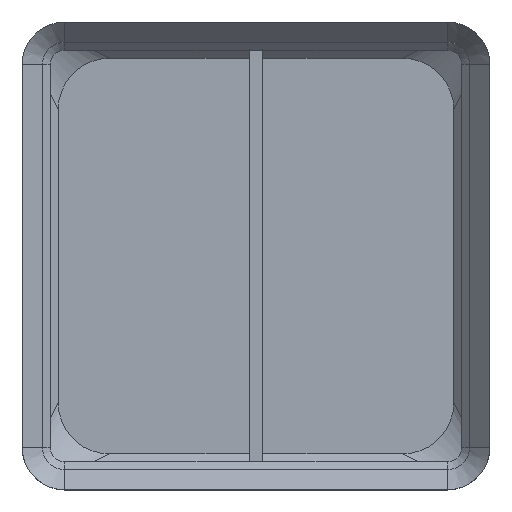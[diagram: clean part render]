
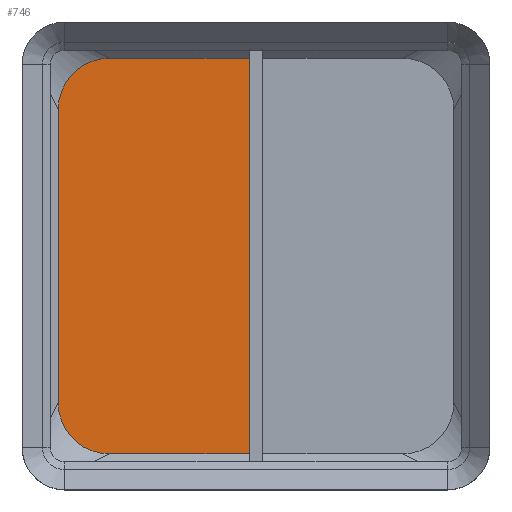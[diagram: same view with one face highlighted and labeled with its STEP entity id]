
A CAD part, top view. The second image highlights one B-rep face of the part: STEP entity #746.
In plain terms, the highlighted planar face has unit normal (0, 0, 1).
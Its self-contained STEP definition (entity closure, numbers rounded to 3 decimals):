
#32 = PLANE('',#33);
#33 = AXIS2_PLACEMENT_3D('',#34,#35,#36);
#34 = CARTESIAN_POINT('',(-0.6,-19.75,5.65));
#35 = DIRECTION('',(1.,0.,-0.));
#36 = DIRECTION('',(0.,0.,1.));
#83 = VERTEX_POINT('',#84);
#84 = CARTESIAN_POINT('',(-0.6,-17.55,5.75));
#112 = B_SPLINE_SURFACE_WITH_KNOTS('',1,1,(
    (#113,#114)
    ,(#115,#116
    )),.UNSPECIFIED.,.F.,.F.,.F.,(2,2),(2,2),(-17.,17.),(0.,1.),
  .PIECEWISE_BEZIER_KNOTS.);
#113 = CARTESIAN_POINT('',(-13.,-17.55,5.75));
#114 = CARTESIAN_POINT('',(-17.,-19.55,7.75));
#115 = CARTESIAN_POINT('',(13.,-17.55,5.75));
#116 = CARTESIAN_POINT('',(17.,-19.55,7.75));
#131 = EDGE_CURVE('',#83,#132,#134,.T.);
#132 = VERTEX_POINT('',#133);
#133 = CARTESIAN_POINT('',(-0.6,17.55,5.75));
#134 = SURFACE_CURVE('',#135,(#139,#145),.PCURVE_S1.);
#135 = LINE('',#136,#137);
#136 = CARTESIAN_POINT('',(-0.6,-16.375,5.75));
#137 = VECTOR('',#138,1.);
#138 = DIRECTION('',(-0.,1.,0.));
#139 = PCURVE('',#32,#140);
#140 = DEFINITIONAL_REPRESENTATION('',(#141),#144);
#141 = B_SPLINE_CURVE_WITH_KNOTS('',1,(#142,#143),.UNSPECIFIED.,.F.,.F.,
  (2,2),(-1.175,33.925),.PIECEWISE_BEZIER_KNOTS.);
#142 = CARTESIAN_POINT('',(0.1,-2.2));
#143 = CARTESIAN_POINT('',(0.1,-37.3));
#144 = ( GEOMETRIC_REPRESENTATION_CONTEXT(2) 
PARAMETRIC_REPRESENTATION_CONTEXT() REPRESENTATION_CONTEXT('2D SPACE',''
  ) );
#145 = PCURVE('',#146,#151);
#146 = PLANE('',#147);
#147 = AXIS2_PLACEMENT_3D('',#148,#149,#150);
#148 = CARTESIAN_POINT('',(-13.,-13.,5.75));
#149 = DIRECTION('',(0.,0.,1.));
#150 = DIRECTION('',(1.,0.,0.));
#151 = DEFINITIONAL_REPRESENTATION('',(#152),#155);
#152 = B_SPLINE_CURVE_WITH_KNOTS('',1,(#153,#154),.UNSPECIFIED.,.F.,.F.,
  (2,2),(-1.175,33.925),.PIECEWISE_BEZIER_KNOTS.);
#153 = CARTESIAN_POINT('',(12.4,-4.55));
#154 = CARTESIAN_POINT('',(12.4,30.55));
#155 = ( GEOMETRIC_REPRESENTATION_CONTEXT(2) 
PARAMETRIC_REPRESENTATION_CONTEXT() REPRESENTATION_CONTEXT('2D SPACE',''
  ) );
#187 = B_SPLINE_SURFACE_WITH_KNOTS('',1,1,(
    (#188,#189)
    ,(#190,#191
    )),.UNSPECIFIED.,.F.,.F.,.F.,(2,2),(2,2),(-17.,17.),(0.,1.),
  .PIECEWISE_BEZIER_KNOTS.);
#188 = CARTESIAN_POINT('',(13.,17.55,5.75));
#189 = CARTESIAN_POINT('',(17.,19.55,7.75));
#190 = CARTESIAN_POINT('',(-13.,17.55,5.75));
#191 = CARTESIAN_POINT('',(-17.,19.55,7.75));
#684 = EDGE_CURVE('',#685,#132,#687,.T.);
#685 = VERTEX_POINT('',#686);
#686 = CARTESIAN_POINT('',(-13.,17.55,5.75));
#687 = SURFACE_CURVE('',#688,(#692,#698),.PCURVE_S1.);
#688 = LINE('',#689,#690);
#689 = CARTESIAN_POINT('',(0.,17.55,5.75));
#690 = VECTOR('',#691,1.);
#691 = DIRECTION('',(1.,0.,0.));
#692 = PCURVE('',#187,#693);
#693 = DEFINITIONAL_REPRESENTATION('',(#694),#697);
#694 = B_SPLINE_CURVE_WITH_KNOTS('',1,(#695,#696),.UNSPECIFIED.,.F.,.F.,
  (2,2),(-13.,13.),.PIECEWISE_BEZIER_KNOTS.);
#695 = CARTESIAN_POINT('',(17.,0.));
#696 = CARTESIAN_POINT('',(-17.,0.));
#697 = ( GEOMETRIC_REPRESENTATION_CONTEXT(2) 
PARAMETRIC_REPRESENTATION_CONTEXT() REPRESENTATION_CONTEXT('2D SPACE',''
  ) );
#698 = PCURVE('',#146,#699);
#699 = DEFINITIONAL_REPRESENTATION('',(#700),#704);
#700 = LINE('',#701,#702);
#701 = CARTESIAN_POINT('',(13.,30.55));
#702 = VECTOR('',#703,1.);
#703 = DIRECTION('',(1.,0.));
#704 = ( GEOMETRIC_REPRESENTATION_CONTEXT(2) 
PARAMETRIC_REPRESENTATION_CONTEXT() REPRESENTATION_CONTEXT('2D SPACE',''
  ) );
#719 = B_SPLINE_SURFACE_WITH_KNOTS('',8,1,(
    (#720,#721)
    ,(#722,#723)
    ,(#724,#725)
    ,(#726,#727)
    ,(#728,#729)
    ,(#730,#731)
    ,(#732,#733)
    ,(#734,#735)
    ,(#736,#737
    )),.UNSPECIFIED.,.F.,.F.,.F.,(9,9),(2,2),(1.571,
    3.142),(0.,1.),.PIECEWISE_BEZIER_KNOTS.);
#720 = CARTESIAN_POINT('',(-13.,17.55,5.75));
#721 = CARTESIAN_POINT('',(-17.,19.55,7.75));
#722 = CARTESIAN_POINT('',(-13.893,17.55,5.75));
#723 = CARTESIAN_POINT('',(-17.501,19.55,7.75));
#724 = CARTESIAN_POINT('',(-14.787,17.35,5.75));
#725 = CARTESIAN_POINT('',(-18.001,19.438,7.75));
#726 = CARTESIAN_POINT('',(-15.628,16.949,5.75));
#727 = CARTESIAN_POINT('',(-18.473,19.213,7.75));
#728 = CARTESIAN_POINT('',(-16.364,16.364,5.75));
#729 = CARTESIAN_POINT('',(-18.885,18.885,7.75));
#730 = CARTESIAN_POINT('',(-16.949,15.628,5.75));
#731 = CARTESIAN_POINT('',(-19.213,18.473,7.75));
#732 = CARTESIAN_POINT('',(-17.35,14.787,5.75));
#733 = CARTESIAN_POINT('',(-19.438,18.001,7.75));
#734 = CARTESIAN_POINT('',(-17.55,13.893,5.75));
#735 = CARTESIAN_POINT('',(-19.55,17.501,7.75));
#736 = CARTESIAN_POINT('',(-17.55,13.,5.75));
#737 = CARTESIAN_POINT('',(-19.55,17.,7.75));
#746 = ADVANCED_FACE('',(#747),#146,.T.);
#747 = FACE_BOUND('',#748,.T.);
#748 = EDGE_LOOP('',(#749,#778,#821,#841,#842,#843));
#749 = ORIENTED_EDGE('',*,*,#750,.F.);
#750 = EDGE_CURVE('',#751,#753,#755,.T.);
#751 = VERTEX_POINT('',#752);
#752 = CARTESIAN_POINT('',(-17.55,-13.,5.75));
#753 = VERTEX_POINT('',#754);
#754 = CARTESIAN_POINT('',(-17.55,13.,5.75));
#755 = SURFACE_CURVE('',#756,(#760,#767),.PCURVE_S1.);
#756 = LINE('',#757,#758);
#757 = CARTESIAN_POINT('',(-17.55,0.,5.75));
#758 = VECTOR('',#759,1.);
#759 = DIRECTION('',(0.,1.,0.));
#760 = PCURVE('',#146,#761);
#761 = DEFINITIONAL_REPRESENTATION('',(#762),#766);
#762 = LINE('',#763,#764);
#763 = CARTESIAN_POINT('',(-4.55,13.));
#764 = VECTOR('',#765,1.);
#765 = DIRECTION('',(0.,1.));
#766 = ( GEOMETRIC_REPRESENTATION_CONTEXT(2) 
PARAMETRIC_REPRESENTATION_CONTEXT() REPRESENTATION_CONTEXT('2D SPACE',''
  ) );
#767 = PCURVE('',#768,#773);
#768 = B_SPLINE_SURFACE_WITH_KNOTS('',1,1,(
    (#769,#770)
    ,(#771,#772
    )),.UNSPECIFIED.,.F.,.F.,.F.,(2,2),(2,2),(-17.,17.),(0.,1.),
  .PIECEWISE_BEZIER_KNOTS.);
#769 = CARTESIAN_POINT('',(-17.55,13.,5.75));
#770 = CARTESIAN_POINT('',(-19.55,17.,7.75));
#771 = CARTESIAN_POINT('',(-17.55,-13.,5.75));
#772 = CARTESIAN_POINT('',(-19.55,-17.,7.75));
#773 = DEFINITIONAL_REPRESENTATION('',(#774),#777);
#774 = B_SPLINE_CURVE_WITH_KNOTS('',1,(#775,#776),.UNSPECIFIED.,.F.,.F.,
  (2,2),(-13.,13.),.PIECEWISE_BEZIER_KNOTS.);
#775 = CARTESIAN_POINT('',(17.,0.));
#776 = CARTESIAN_POINT('',(-17.,0.));
#777 = ( GEOMETRIC_REPRESENTATION_CONTEXT(2) 
PARAMETRIC_REPRESENTATION_CONTEXT() REPRESENTATION_CONTEXT('2D SPACE',''
  ) );
#778 = ORIENTED_EDGE('',*,*,#779,.T.);
#779 = EDGE_CURVE('',#751,#780,#782,.T.);
#780 = VERTEX_POINT('',#781);
#781 = CARTESIAN_POINT('',(-13.,-17.55,5.75));
#782 = SURFACE_CURVE('',#783,(#788,#795),.PCURVE_S1.);
#783 = CIRCLE('',#784,4.55);
#784 = AXIS2_PLACEMENT_3D('',#785,#786,#787);
#785 = CARTESIAN_POINT('',(-13.,-13.,5.75));
#786 = DIRECTION('',(0.,0.,1.));
#787 = DIRECTION('',(1.,0.,0.));
#788 = PCURVE('',#146,#789);
#789 = DEFINITIONAL_REPRESENTATION('',(#790),#794);
#790 = CIRCLE('',#791,4.55);
#791 = AXIS2_PLACEMENT_2D('',#792,#793);
#792 = CARTESIAN_POINT('',(0.,0.));
#793 = DIRECTION('',(1.,0.));
#794 = ( GEOMETRIC_REPRESENTATION_CONTEXT(2) 
PARAMETRIC_REPRESENTATION_CONTEXT() REPRESENTATION_CONTEXT('2D SPACE',''
  ) );
#795 = PCURVE('',#796,#815);
#796 = B_SPLINE_SURFACE_WITH_KNOTS('',8,1,(
    (#797,#798)
    ,(#799,#800)
    ,(#801,#802)
    ,(#803,#804)
    ,(#805,#806)
    ,(#807,#808)
    ,(#809,#810)
    ,(#811,#812)
    ,(#813,#814
    )),.UNSPECIFIED.,.F.,.F.,.F.,(9,9),(2,2),(3.142,
    4.712),(0.,1.),.PIECEWISE_BEZIER_KNOTS.);
#797 = CARTESIAN_POINT('',(-17.55,-13.,5.75));
#798 = CARTESIAN_POINT('',(-19.55,-17.,7.75));
#799 = CARTESIAN_POINT('',(-17.55,-13.893,5.75));
#800 = CARTESIAN_POINT('',(-19.55,-17.501,7.75));
#801 = CARTESIAN_POINT('',(-17.35,-14.787,5.75));
#802 = CARTESIAN_POINT('',(-19.438,-18.001,7.75));
#803 = CARTESIAN_POINT('',(-16.949,-15.628,5.75));
#804 = CARTESIAN_POINT('',(-19.213,-18.473,
    7.75));
#805 = CARTESIAN_POINT('',(-16.364,-16.364,5.75));
#806 = CARTESIAN_POINT('',(-18.885,-18.885,
    7.75));
#807 = CARTESIAN_POINT('',(-15.628,-16.949,5.75));
#808 = CARTESIAN_POINT('',(-18.473,-19.213,7.75));
#809 = CARTESIAN_POINT('',(-14.787,-17.35,5.75));
#810 = CARTESIAN_POINT('',(-18.001,-19.438,7.75));
#811 = CARTESIAN_POINT('',(-13.893,-17.55,5.75));
#812 = CARTESIAN_POINT('',(-17.501,-19.55,7.75));
#813 = CARTESIAN_POINT('',(-13.,-17.55,5.75));
#814 = CARTESIAN_POINT('',(-17.,-19.55,7.75));
#815 = DEFINITIONAL_REPRESENTATION('',(#816),#820);
#816 = LINE('',#817,#818);
#817 = CARTESIAN_POINT('',(0.,0.));
#818 = VECTOR('',#819,1.);
#819 = DIRECTION('',(1.,0.));
#820 = ( GEOMETRIC_REPRESENTATION_CONTEXT(2) 
PARAMETRIC_REPRESENTATION_CONTEXT() REPRESENTATION_CONTEXT('2D SPACE',''
  ) );
#821 = ORIENTED_EDGE('',*,*,#822,.T.);
#822 = EDGE_CURVE('',#780,#83,#823,.T.);
#823 = SURFACE_CURVE('',#824,(#828,#835),.PCURVE_S1.);
#824 = LINE('',#825,#826);
#825 = CARTESIAN_POINT('',(0.,-17.55,5.75));
#826 = VECTOR('',#827,1.);
#827 = DIRECTION('',(1.,0.,0.));
#828 = PCURVE('',#146,#829);
#829 = DEFINITIONAL_REPRESENTATION('',(#830),#834);
#830 = LINE('',#831,#832);
#831 = CARTESIAN_POINT('',(13.,-4.55));
#832 = VECTOR('',#833,1.);
#833 = DIRECTION('',(1.,0.));
#834 = ( GEOMETRIC_REPRESENTATION_CONTEXT(2) 
PARAMETRIC_REPRESENTATION_CONTEXT() REPRESENTATION_CONTEXT('2D SPACE',''
  ) );
#835 = PCURVE('',#112,#836);
#836 = DEFINITIONAL_REPRESENTATION('',(#837),#840);
#837 = B_SPLINE_CURVE_WITH_KNOTS('',1,(#838,#839),.UNSPECIFIED.,.F.,.F.,
  (2,2),(-13.,13.),.PIECEWISE_BEZIER_KNOTS.);
#838 = CARTESIAN_POINT('',(-17.,0.));
#839 = CARTESIAN_POINT('',(17.,0.));
#840 = ( GEOMETRIC_REPRESENTATION_CONTEXT(2) 
PARAMETRIC_REPRESENTATION_CONTEXT() REPRESENTATION_CONTEXT('2D SPACE',''
  ) );
#841 = ORIENTED_EDGE('',*,*,#131,.T.);
#842 = ORIENTED_EDGE('',*,*,#684,.F.);
#843 = ORIENTED_EDGE('',*,*,#844,.T.);
#844 = EDGE_CURVE('',#685,#753,#845,.T.);
#845 = SURFACE_CURVE('',#846,(#851,#858),.PCURVE_S1.);
#846 = CIRCLE('',#847,4.55);
#847 = AXIS2_PLACEMENT_3D('',#848,#849,#850);
#848 = CARTESIAN_POINT('',(-13.,13.,5.75));
#849 = DIRECTION('',(0.,0.,1.));
#850 = DIRECTION('',(1.,0.,0.));
#851 = PCURVE('',#146,#852);
#852 = DEFINITIONAL_REPRESENTATION('',(#853),#857);
#853 = CIRCLE('',#854,4.55);
#854 = AXIS2_PLACEMENT_2D('',#855,#856);
#855 = CARTESIAN_POINT('',(0.,26.));
#856 = DIRECTION('',(1.,0.));
#857 = ( GEOMETRIC_REPRESENTATION_CONTEXT(2) 
PARAMETRIC_REPRESENTATION_CONTEXT() REPRESENTATION_CONTEXT('2D SPACE',''
  ) );
#858 = PCURVE('',#719,#859);
#859 = DEFINITIONAL_REPRESENTATION('',(#860),#864);
#860 = LINE('',#861,#862);
#861 = CARTESIAN_POINT('',(0.,0.));
#862 = VECTOR('',#863,1.);
#863 = DIRECTION('',(1.,0.));
#864 = ( GEOMETRIC_REPRESENTATION_CONTEXT(2) 
PARAMETRIC_REPRESENTATION_CONTEXT() REPRESENTATION_CONTEXT('2D SPACE',''
  ) );
